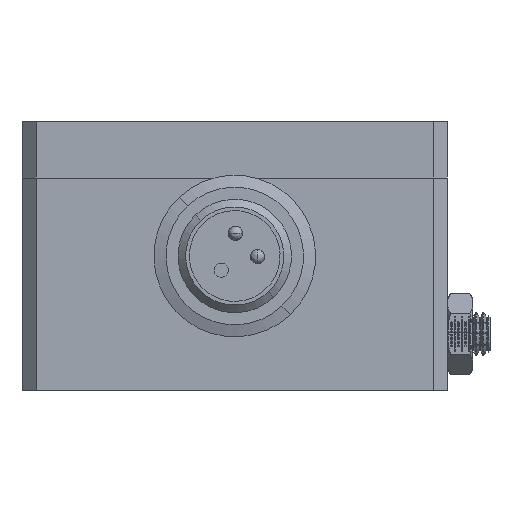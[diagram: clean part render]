
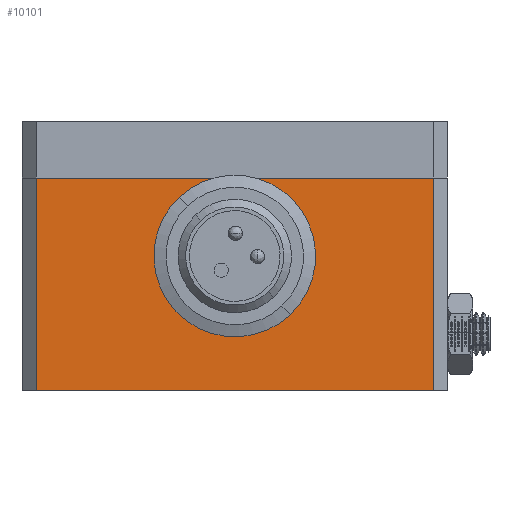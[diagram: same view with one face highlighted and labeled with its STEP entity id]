
A CAD part, front view. The second image highlights one B-rep face of the part: STEP entity #10101.
In plain terms, the highlighted planar face has unit normal (0, -1, 0).
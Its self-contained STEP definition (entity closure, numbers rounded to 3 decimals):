
#8995 = VERTEX_POINT ( 'NONE', #19237 ) ;
#9052 = VERTEX_POINT ( 'NONE', #19294 ) ;
#9148 = VERTEX_POINT ( 'NONE', #19390 ) ;
#9237 = VERTEX_POINT ( 'NONE', #19479 ) ;
#9238 = VERTEX_POINT ( 'NONE', #19480 ) ;
#9240 = VERTEX_POINT ( 'NONE', #19482 ) ;
#9642 = EDGE_CURVE ( 'NONE', #9238, #9240, #20825, .T. ) ;
#9697 = EDGE_CURVE ( 'NONE', #8995, #9052, #20898, .T. ) ;
#9817 = EDGE_CURVE ( 'NONE', #9237, #9148, #21077, .T. ) ;
#9825 = EDGE_CURVE ( 'NONE', #9052, #9237, #21075, .T. ) ;
#9831 = EDGE_CURVE ( 'NONE', #9240, #9238, #21102, .T. ) ;
#9832 = EDGE_CURVE ( 'NONE', #9148, #8995, #21095, .T. ) ;
#10101 = ADVANCED_FACE ( 'NONE', ( #27006, #27004 ), #25091, .T. ) ;
#10796 = ORIENTED_EDGE ( 'NONE', *, *, #9831, .F. ) ;
#10797 = ORIENTED_EDGE ( 'NONE', *, *, #9642, .F. ) ;
#10798 = ORIENTED_EDGE ( 'NONE', *, *, #9817, .T. ) ;
#10799 = ORIENTED_EDGE ( 'NONE', *, *, #9832, .T. ) ;
#10800 = ORIENTED_EDGE ( 'NONE', *, *, #9697, .T. ) ;
#10801 = ORIENTED_EDGE ( 'NONE', *, *, #9825, .T. ) ;
#19237 = CARTESIAN_POINT ( 'NONE',  ( -14., -22.5, 0. ) ) ;
#19294 = CARTESIAN_POINT ( 'NONE',  ( 14., -22.5, 0. ) ) ;
#19390 = CARTESIAN_POINT ( 'NONE',  ( -14., -22.5, 15. ) ) ;
#19479 = CARTESIAN_POINT ( 'NONE',  ( 14., -22.5, 15. ) ) ;
#19480 = CARTESIAN_POINT ( 'NONE',  ( 0., -22.5, 11.6 ) ) ;
#19482 = CARTESIAN_POINT ( 'NONE',  ( 0., -22.5, 7.4 ) ) ;
#20188 = AXIS2_PLACEMENT_3D ( 'NONE', #22055, #22056, #22057 ) ;
#20231 = AXIS2_PLACEMENT_3D ( 'NONE', #23075, #23086, #23087 ) ;
#20466 = EDGE_LOOP ( 'NONE', ( #10798, #10799, #10800, #10801 ) ) ;
#20472 = EDGE_LOOP ( 'NONE', ( #10796, #10797 ) ) ;
#20825 = CIRCLE ( 'NONE', #20188, 2.1 ) ;
#20898 = LINE ( 'NONE', #22319, #20899 ) ;
#20899 = VECTOR ( 'NONE', #22320, 1000. ) ;
#21075 = LINE ( 'NONE', #23066, #21091 ) ;
#21077 = LINE ( 'NONE', #23052, #21078 ) ;
#21078 = VECTOR ( 'NONE', #23053, 1000. ) ;
#21091 = VECTOR ( 'NONE', #23072, 1000. ) ;
#21095 = LINE ( 'NONE', #23088, #21098 ) ;
#21098 = VECTOR ( 'NONE', #23089, 1000. ) ;
#21102 = CIRCLE ( 'NONE', #20231, 2.1 ) ;
#22055 = CARTESIAN_POINT ( 'NONE',  ( 0., -22.5, 9.5 ) ) ;
#22056 = DIRECTION ( 'NONE',  ( 0., -1., 0. ) ) ;
#22057 = DIRECTION ( 'NONE',  ( 0., 0., -1. ) ) ;
#22319 = CARTESIAN_POINT ( 'NONE',  ( -15., -22.5, 0. ) ) ;
#22320 = DIRECTION ( 'NONE',  ( 1., 0., 0. ) ) ;
#23052 = CARTESIAN_POINT ( 'NONE',  ( 15., -22.5, 15. ) ) ;
#23053 = DIRECTION ( 'NONE',  ( -1., 0., 0. ) ) ;
#23066 = CARTESIAN_POINT ( 'NONE',  ( 14., -22.5, 15. ) ) ;
#23072 = DIRECTION ( 'NONE',  ( 0., 0., 1. ) ) ;
#23075 = CARTESIAN_POINT ( 'NONE',  ( 0., -22.5, 9.5 ) ) ;
#23086 = DIRECTION ( 'NONE',  ( 0., -1., 0. ) ) ;
#23087 = DIRECTION ( 'NONE',  ( 0., 0., -1. ) ) ;
#23088 = CARTESIAN_POINT ( 'NONE',  ( -14., -22.5, 0. ) ) ;
#23089 = DIRECTION ( 'NONE',  ( 0., 0., -1. ) ) ;
#25072 = CARTESIAN_POINT ( 'NONE',  ( 0., -22.5, 0. ) ) ;
#25091 = PLANE ( 'NONE',  #25856 ) ;
#25092 = DIRECTION ( 'NONE',  ( 0., -1., 0. ) ) ;
#25093 = DIRECTION ( 'NONE',  ( 0., 0., -1. ) ) ;
#25856 = AXIS2_PLACEMENT_3D ( 'NONE', #25072, #25092, #25093 ) ;
#27004 = FACE_OUTER_BOUND ( 'NONE', #20466, .T. ) ;
#27006 = FACE_BOUND ( 'NONE', #20472, .T. ) ;
